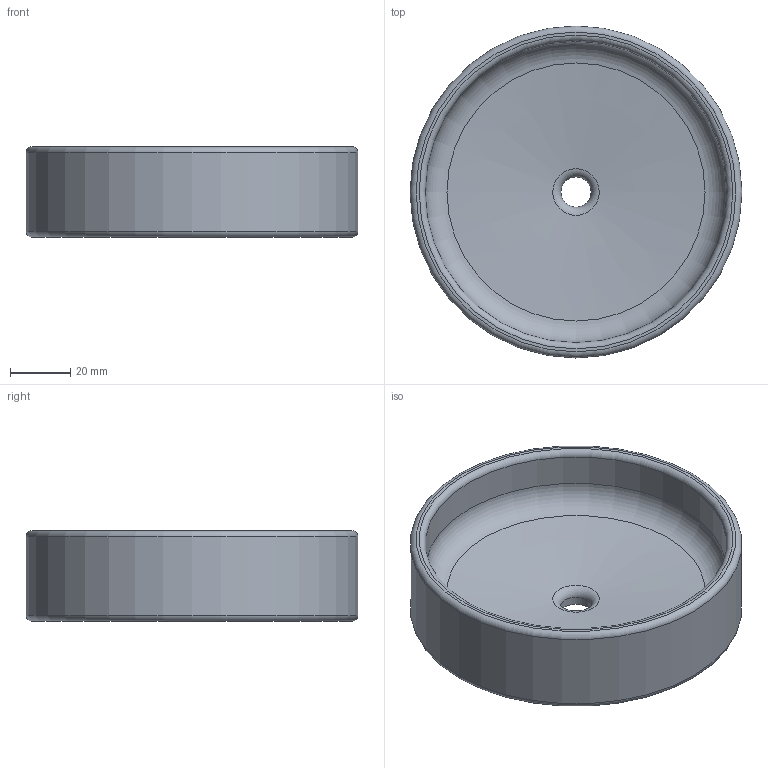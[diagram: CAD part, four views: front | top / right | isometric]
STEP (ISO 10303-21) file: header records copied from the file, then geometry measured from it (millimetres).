
FILE_DESCRIPTION(/* description */ ('STEP AP242 Edition 2','CAx-IF Rec.Pracs.---Representation and Presentation of Product Manufacturing Information (PMI)---4.0---2014-10-13','CAx-IF Rec.Pracs.---3D Tessellated Geometry---0.4---2014-09-14','2;1','CAx-IF Rec.Pracs.---User Defined Attributes---1.5---2016-08-15'),/* implementation_level */ '2;1');
FILE_NAME(/* name */ 'Assembly 1 - Part 7',/* time_stamp */ '2026-10-18T18:48:31Z',/* author */ (''),/* organization */ (''),/* preprocessor_version */ 'ST-DEVELOPER v20',/* originating_system */ 'ONSHAPE BY PTC INC, 1.222',/* authorisation */ ' ');
FILE_SCHEMA (('AP242_MANAGED_MODEL_BASED_3D_ENGINEERING_MIM_LF { 1 0 10303 442 3 1 4 }'));
Length unit declared in the file: metre
Products named in the file (1): Part 7
Bounding box: 110 x 110 x 30 mm (x, y, z)
Volume: 116919.4 mm3; surface area: 33936.2 mm2
Topology: 1 solids, 1 shells, 11 faces, 24 edges, 15 vertices
Faces by surface type: torus 5, cylinder 3, plane 2, cone 1
Full cylindrical faces by diameter (mm): 10 x1, 100 x1, 110 x1
Entity records: 250 total; most frequent: DIRECTION 46, CARTESIAN_POINT 34, AXIS2_PLACEMENT_3D 23, ORIENTED_EDGE 22, EDGE_LOOP 22, FACE_BOUND 22, EDGE_CURVE 11, VERTEX_POINT 11
